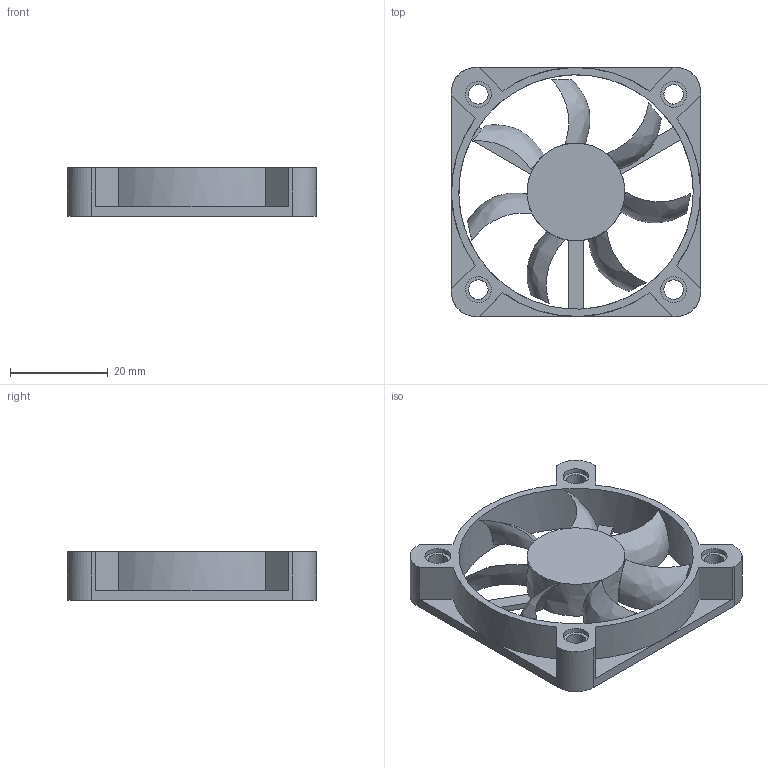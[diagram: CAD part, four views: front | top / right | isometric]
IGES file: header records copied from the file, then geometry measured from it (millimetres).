
Global section: file name: JAMICON FAN 50X50X10; native system: Autodesk Inventor 2015; preprocessor: unknown; author: Phil; date: 20141011.133351; units: millimetre
Bounding box: 51 x 51 x 10 mm (x, y, z)
Volume: 8328.6 mm3; surface area: 9091.8 mm2
Topology: 1 solids, 1 shells, 111 faces, 261 edges, 155 vertices
Faces by surface type: bspline 111
